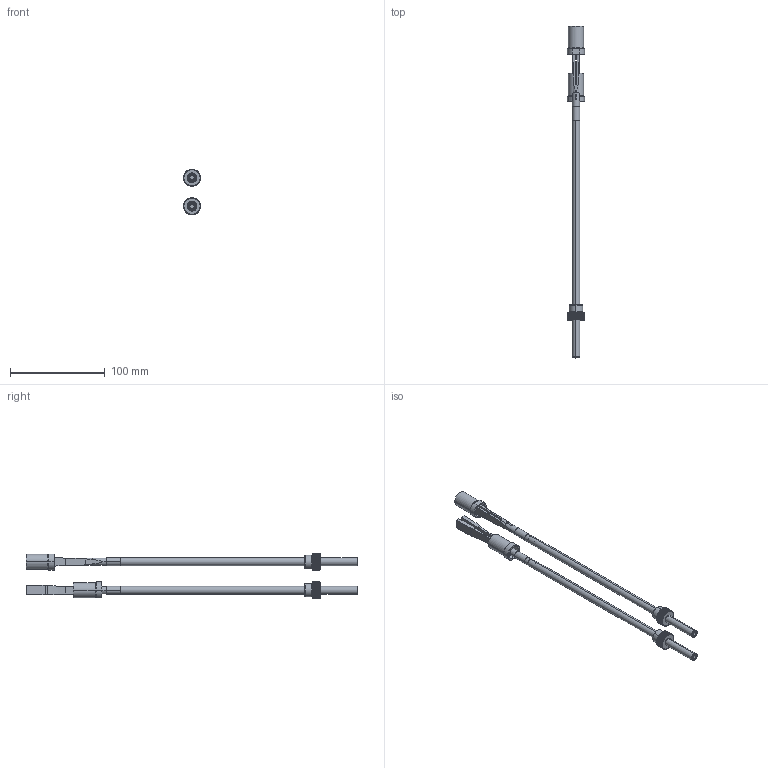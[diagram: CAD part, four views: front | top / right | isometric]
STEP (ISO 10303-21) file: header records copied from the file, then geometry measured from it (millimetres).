
FILE_DESCRIPTION (( 'STEP AP214' ), '1' );
FILE_NAME ('ed108350.STEP', '2017-04-05T15:24:58', ( '' ), ( '' ), 'SwSTEP 2.0', 'SolidWorks 2017', '' );
FILE_SCHEMA (( 'AUTOMOTIVE_DESIGN' ));
Length unit declared in the file: millimetre
Products named in the file (11): 8ED108100 Tancada; ed108350; 9TP081418; 9ED108350; ED108350_1; ED108350 Tancada; 8ED108100; 9CP100830; 3JT7.5X1.5X10.5; 8TP081418; 9EP080250
Assembly tree (13 placements, depth 4):
  ed108350
    ED108350 Tancada
      8ED108100 Tancada
      9EP080250
      9TP081418
        8TP081418
        3JT7.5X1.5X10.5
      9CP100830
    ED108350_1
      9CP100830
      9TP081418
        8TP081418
        3JT7.5X1.5X10.5
      9ED108350
        8ED108100
        9EP080250
Bounding box: 18 x 350.01 x 47.8 mm (x, y, z)
Volume: 39818.7 mm3; surface area: 38276.1 mm2
Topology: 10 solids, 10 shells, 862 faces, 2440 edges, 1612 vertices
Faces by surface type: plane 374, cylinder 270, cone 190, bspline 28
Entity records: 23142 total; most frequent: CARTESIAN_POINT 4871, ORIENTED_EDGE 2768, DIRECTION 2491, EDGE_CURVE 1384, VERTEX_POINT 914, AXIS2_PLACEMENT_3D 886, LINE 719, VECTOR 719
